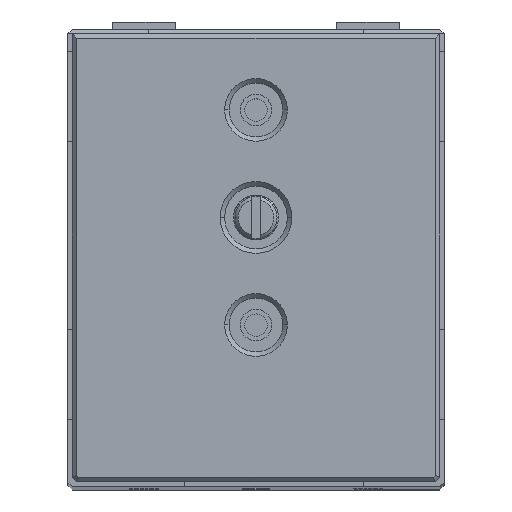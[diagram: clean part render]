
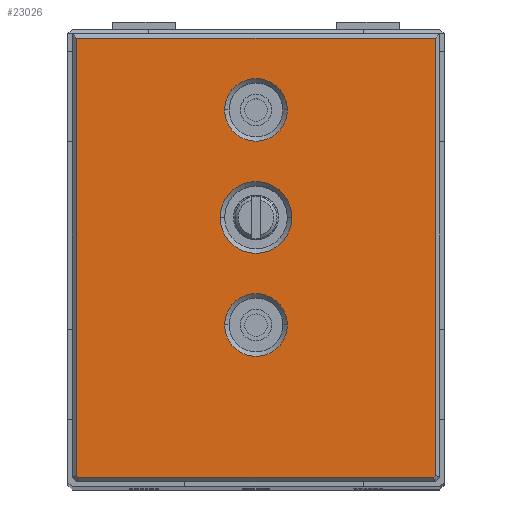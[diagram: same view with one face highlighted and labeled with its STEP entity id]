
A CAD part, top view. The second image highlights one B-rep face of the part: STEP entity #23026.
In plain terms, the highlighted planar face has unit normal (0, 0, 1) as drawn and (0, 0, -1) by its records, which use the part's own axes.
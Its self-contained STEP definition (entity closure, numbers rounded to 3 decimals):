
#270 = CARTESIAN_POINT ( 'NONE',  ( 20.5, 29.5, 0. ) ) ;
#438 = AXIS2_PLACEMENT_3D ( 'NONE', #44457, #10564, #25658 ) ;
#632 = CARTESIAN_POINT ( 'NONE',  ( 40.146, 0.354, 0. ) ) ;
#1426 = AXIS2_PLACEMENT_3D ( 'NONE', #48175, #36044, #17743 ) ;
#2316 = LINE ( 'NONE', #17416, #34271 ) ;
#2615 = AXIS2_PLACEMENT_3D ( 'NONE', #8583, #12303, #16519 ) ;
#2631 = PLANE ( 'NONE',  #22305 ) ;
#3068 = CARTESIAN_POINT ( 'NONE',  ( 0.707, 0.5, 0. ) ) ;
#3487 = CIRCLE ( 'NONE', #5845, 3.5 ) ;
#3612 = ORIENTED_EDGE ( 'NONE', *, *, #42259, .T. ) ;
#3869 = VERTEX_POINT ( 'NONE', #25040 ) ;
#4137 = CARTESIAN_POINT ( 'NONE',  ( 16.5, 29.5, 0. ) ) ;
#4463 = LINE ( 'NONE', #4943, #12506 ) ;
#4714 = DIRECTION ( 'NONE',  ( 0., 1., 0. ) ) ;
#4943 = CARTESIAN_POINT ( 'NONE',  ( 0.5, 50., 0. ) ) ;
#4983 = CIRCLE ( 'NONE', #2615, 3.5 ) ;
#5671 = DIRECTION ( 'NONE',  ( -1., 0., 0. ) ) ;
#5729 = EDGE_LOOP ( 'NONE', ( #39127, #46917, #21358, #9312, #47646, #26044 ) ) ;
#5845 = AXIS2_PLACEMENT_3D ( 'NONE', #33872, #40803, #26203 ) ;
#5947 = CARTESIAN_POINT ( 'NONE',  ( 40.5, 49.5, 0. ) ) ;
#6067 = CARTESIAN_POINT ( 'NONE',  ( 40.5, 0.707, 0. ) ) ;
#7116 = VECTOR ( 'NONE', #23272, 1000. ) ;
#7553 = VERTEX_POINT ( 'NONE', #4137 ) ;
#7943 = DIRECTION ( 'NONE',  ( 0., 0., 1. ) ) ;
#8108 = EDGE_CURVE ( 'NONE', #29383, #12878, #10001, .T. ) ;
#8387 = CARTESIAN_POINT ( 'NONE',  ( 41., 49.5, 0. ) ) ;
#8583 = CARTESIAN_POINT ( 'NONE',  ( 20.5, 41.5, 0. ) ) ;
#8981 = VERTEX_POINT ( 'NONE', #5947 ) ;
#9312 = ORIENTED_EDGE ( 'NONE', *, *, #37848, .T. ) ;
#10001 = CIRCLE ( 'NONE', #438, 3.5 ) ;
#10484 = VERTEX_POINT ( 'NONE', #16482 ) ;
#10526 = CARTESIAN_POINT ( 'NONE',  ( 40.5, 0.5, 0. ) ) ;
#10564 = DIRECTION ( 'NONE',  ( 0., 0., 1. ) ) ;
#11444 = ORIENTED_EDGE ( 'NONE', *, *, #41027, .T. ) ;
#12235 = EDGE_LOOP ( 'NONE', ( #3612, #33687 ) ) ;
#12303 = DIRECTION ( 'NONE',  ( 0., 0., 1. ) ) ;
#12467 = EDGE_CURVE ( 'NONE', #40209, #7553, #12495, .T. ) ;
#12495 = CIRCLE ( 'NONE', #1426, 4. ) ;
#12506 = VECTOR ( 'NONE', #4714, 1000. ) ;
#12644 = ORIENTED_EDGE ( 'NONE', *, *, #8108, .T. ) ;
#12754 = VERTEX_POINT ( 'NONE', #22312 ) ;
#12878 = VERTEX_POINT ( 'NONE', #40614 ) ;
#14024 = FACE_BOUND ( 'NONE', #32865, .T. ) ;
#14274 = FACE_OUTER_BOUND ( 'NONE', #5729, .T. ) ;
#15030 = ORIENTED_EDGE ( 'NONE', *, *, #18149, .T. ) ;
#15127 = VERTEX_POINT ( 'NONE', #6067 ) ;
#15984 = EDGE_CURVE ( 'NONE', #12754, #48491, #2316, .T. ) ;
#16482 = CARTESIAN_POINT ( 'NONE',  ( 17., 41.5, 0. ) ) ;
#16519 = DIRECTION ( 'NONE',  ( -1., 0., 0. ) ) ;
#17416 = CARTESIAN_POINT ( 'NONE',  ( 0.5, 0.5, 0. ) ) ;
#17730 = DIRECTION ( 'NONE',  ( 0., 0., -1. ) ) ;
#17743 = DIRECTION ( 'NONE',  ( -1., 0., 0. ) ) ;
#18149 = EDGE_CURVE ( 'NONE', #12878, #29383, #3487, .T. ) ;
#19797 = DIRECTION ( 'NONE',  ( 1., 0., 0. ) ) ;
#21358 = ORIENTED_EDGE ( 'NONE', *, *, #35663, .T. ) ;
#21875 = EDGE_CURVE ( 'NONE', #48491, #27545, #38104, .T. ) ;
#22101 = CARTESIAN_POINT ( 'NONE',  ( 0.5, 0.707, 0. ) ) ;
#22305 = AXIS2_PLACEMENT_3D ( 'NONE', #25889, #17730, #40980 ) ;
#22312 = CARTESIAN_POINT ( 'NONE',  ( 40.293, 0.5, 0. ) ) ;
#23026 = ADVANCED_FACE ( 'NONE', ( #14274, #29355, #44434, #14024 ), #2631, .T. ) ;
#23272 = DIRECTION ( 'NONE',  ( -0.707, 0.707, 0. ) ) ;
#24722 = CARTESIAN_POINT ( 'NONE',  ( 20.5, 41.5, 0. ) ) ;
#24844 = CIRCLE ( 'NONE', #38273, 4. ) ;
#25040 = CARTESIAN_POINT ( 'NONE',  ( 0.5, 49.5, 0. ) ) ;
#25658 = DIRECTION ( 'NONE',  ( -1., 0., 0. ) ) ;
#25889 = CARTESIAN_POINT ( 'NONE',  ( 0., 0., 0. ) ) ;
#26044 = ORIENTED_EDGE ( 'NONE', *, *, #21875, .T. ) ;
#26203 = DIRECTION ( 'NONE',  ( -1., 0., 0. ) ) ;
#26663 = VECTOR ( 'NONE', #45158, 1000. ) ;
#27090 = LINE ( 'NONE', #632, #40997 ) ;
#27267 = CARTESIAN_POINT ( 'NONE',  ( 24., 17.5, 0. ) ) ;
#27467 = VECTOR ( 'NONE', #19797, 1000. ) ;
#27545 = VERTEX_POINT ( 'NONE', #22101 ) ;
#28356 = EDGE_CURVE ( 'NONE', #3869, #8981, #45998, .T. ) ;
#29355 = FACE_BOUND ( 'NONE', #12235, .T. ) ;
#29383 = VERTEX_POINT ( 'NONE', #27267 ) ;
#30579 = CIRCLE ( 'NONE', #45585, 3.5 ) ;
#32489 = DIRECTION ( 'NONE',  ( -1., 0., 0. ) ) ;
#32865 = EDGE_LOOP ( 'NONE', ( #11444, #46794 ) ) ;
#33687 = ORIENTED_EDGE ( 'NONE', *, *, #12467, .T. ) ;
#33872 = CARTESIAN_POINT ( 'NONE',  ( 20.5, 17.5, 0. ) ) ;
#34271 = VECTOR ( 'NONE', #32489, 1000. ) ;
#35473 = EDGE_LOOP ( 'NONE', ( #15030, #12644 ) ) ;
#35663 = EDGE_CURVE ( 'NONE', #8981, #15127, #48641, .T. ) ;
#36044 = DIRECTION ( 'NONE',  ( 0., 0., 1. ) ) ;
#36097 = DIRECTION ( 'NONE',  ( 0., 0., 1. ) ) ;
#36156 = CARTESIAN_POINT ( 'NONE',  ( 24., 41.5, 0. ) ) ;
#36645 = VERTEX_POINT ( 'NONE', #36156 ) ;
#37068 = EDGE_CURVE ( 'NONE', #27545, #3869, #4463, .T. ) ;
#37848 = EDGE_CURVE ( 'NONE', #15127, #12754, #27090, .T. ) ;
#38104 = LINE ( 'NONE', #45782, #7116 ) ;
#38273 = AXIS2_PLACEMENT_3D ( 'NONE', #270, #7943, #42318 ) ;
#39127 = ORIENTED_EDGE ( 'NONE', *, *, #37068, .T. ) ;
#40209 = VERTEX_POINT ( 'NONE', #43088 ) ;
#40614 = CARTESIAN_POINT ( 'NONE',  ( 17., 17.5, 0. ) ) ;
#40803 = DIRECTION ( 'NONE',  ( 0., 0., 1. ) ) ;
#40980 = DIRECTION ( 'NONE',  ( -1., 0., 0. ) ) ;
#40997 = VECTOR ( 'NONE', #42174, 1000. ) ;
#41027 = EDGE_CURVE ( 'NONE', #10484, #36645, #30579, .T. ) ;
#42174 = DIRECTION ( 'NONE',  ( -0.707, -0.707, 0. ) ) ;
#42259 = EDGE_CURVE ( 'NONE', #7553, #40209, #24844, .T. ) ;
#42318 = DIRECTION ( 'NONE',  ( -1., 0., 0. ) ) ;
#43088 = CARTESIAN_POINT ( 'NONE',  ( 24.5, 29.5, 0. ) ) ;
#44434 = FACE_BOUND ( 'NONE', #35473, .T. ) ;
#44457 = CARTESIAN_POINT ( 'NONE',  ( 20.5, 17.5, 0. ) ) ;
#45158 = DIRECTION ( 'NONE',  ( 0., -1., 0. ) ) ;
#45585 = AXIS2_PLACEMENT_3D ( 'NONE', #24722, #36097, #5671 ) ;
#45749 = EDGE_CURVE ( 'NONE', #36645, #10484, #4983, .T. ) ;
#45782 = CARTESIAN_POINT ( 'NONE',  ( 0.354, 0.854, 0. ) ) ;
#45998 = LINE ( 'NONE', #8387, #27467 ) ;
#46794 = ORIENTED_EDGE ( 'NONE', *, *, #45749, .T. ) ;
#46917 = ORIENTED_EDGE ( 'NONE', *, *, #28356, .T. ) ;
#47646 = ORIENTED_EDGE ( 'NONE', *, *, #15984, .T. ) ;
#48175 = CARTESIAN_POINT ( 'NONE',  ( 20.5, 29.5, 0. ) ) ;
#48491 = VERTEX_POINT ( 'NONE', #3068 ) ;
#48641 = LINE ( 'NONE', #10526, #26663 ) ;
